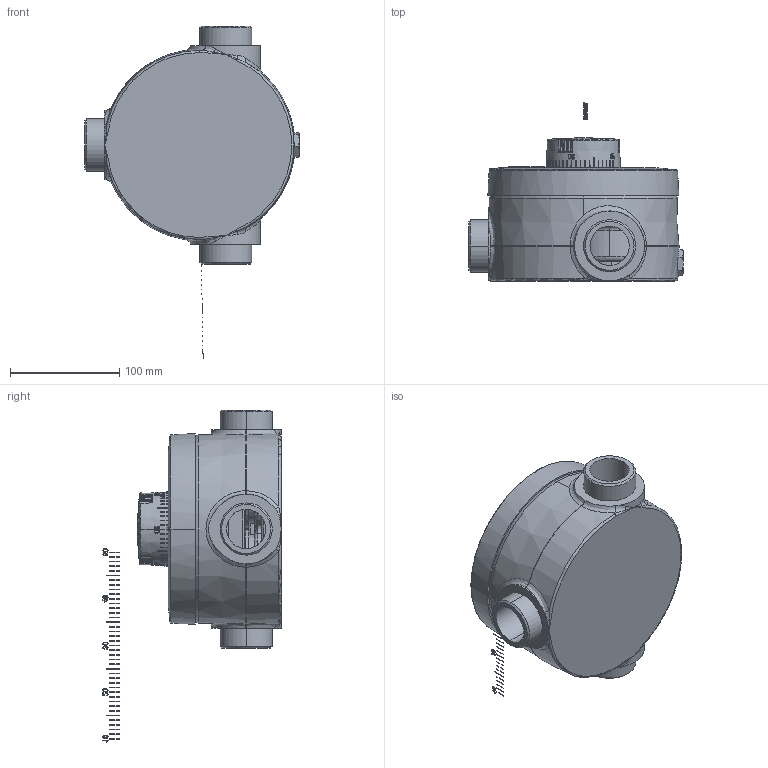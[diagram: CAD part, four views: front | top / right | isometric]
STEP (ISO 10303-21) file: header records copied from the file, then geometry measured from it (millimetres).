
FILE_DESCRIPTION (( 'STEP AP214' ), '1' );
FILE_NAME ('22TX95E.STEP', '2017-12-19T08:41:20', ( '' ), ( '' ), 'SwSTEP 2.0', 'SolidWorks 2017', '' );
FILE_SCHEMA (( 'AUTOMOTIVE_DESIGN' ));
Length unit declared in the file: millimetre
Products named in the file (34): 22113704U_22113704U; 22080500_enveloppe; 22018972; 22108537; 22014887; 22108328; 22012568; 220292232_220292232; 22014081; 22108228; 22010435_22010435; 22108004U; 22108511_22108511; 22108002; 22108001; 22TX95E; 22108000_22108000; 22108612; 22029501; 22100339; 22100347; 22100382; 22019581RI; 22014733; 22108507; 22108024GR; 22108505; 22108019; 22108508; 22108014GR; 22113421; 22108550; 22108314_22100745; 22100037
Assembly tree (48 placements, depth 5):
  22TX95E
    22108511_22108511
    22080500_enveloppe
      22010435_22010435
      22014081  x3
      22012568  x2
      22014887  x2
      22018972  x2
      22029501
        22113704U_22113704U
        22108314_22100745  x2
        22019581RI
          22113421
          22108508
          22108505
          22108507
        22100347
        22100339  x2
      22108612
      220292232_220292232
        22108000_22108000
        22108001
        22108002
        22108004U
        22108228
        22014081
      22108328  x2
      22108537
    22100037  x6
    22108550
    22108014GR
    22108019  x2
    22108024GR
    22014733
    22100382
Bounding box: 196.5 x 163.2 x 304.08 mm (x, y, z)
Volume: 1132509.7 mm3; surface area: 455953.3 mm2
Topology: 99 solids, 99 shells, 3254 faces, 8127 edges, 5003 vertices
Faces by surface type: plane 1248, bspline 649, cylinder 562, cone 491, torus 202, sphere 102
Entity records: 140859 total; most frequent: CARTESIAN_POINT 65078, ORIENTED_EDGE 15432, DIRECTION 12144, EDGE_CURVE 7716, VERTEX_POINT 4820, AXIS2_PLACEMENT_3D 4645, EDGE_LOOP 3336, FACE_OUTER_BOUND 3110
